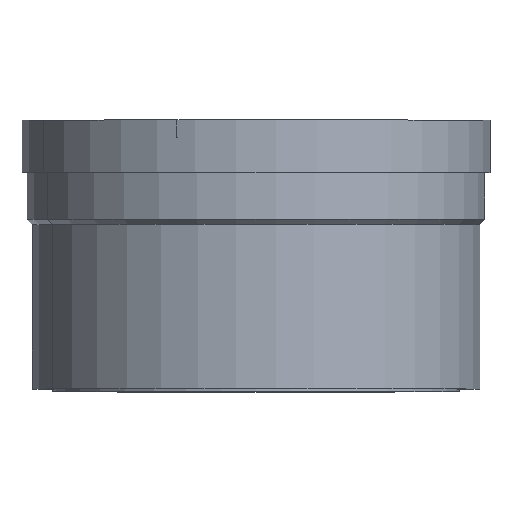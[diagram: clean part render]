
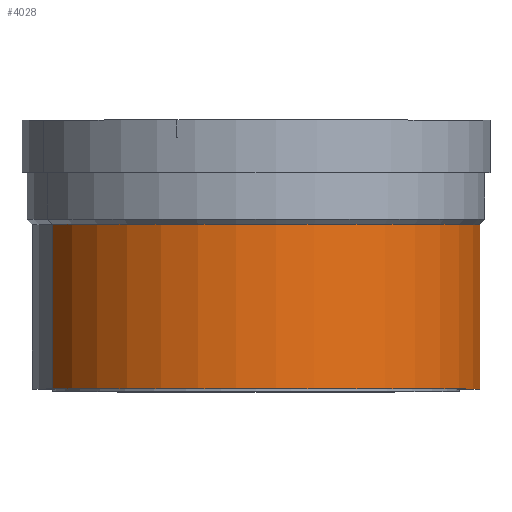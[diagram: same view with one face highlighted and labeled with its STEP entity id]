
A CAD part, top view. The second image highlights one B-rep face of the part: STEP entity #4028.
In plain terms, the highlighted cylindrical face has radius 43 mm (diameter 86 mm), a partial arc.
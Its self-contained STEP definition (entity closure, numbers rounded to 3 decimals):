
#392=CARTESIAN_POINT('',(0.,-3.,0.));
#393=DIRECTION('',(0.,1.,0.));
#394=DIRECTION('',(-0.906,0.,0.423));
#395=AXIS2_PLACEMENT_3D('',#392,#393,#394);
#397=DIRECTION('',(0.,-1.,0.));
#398=VECTOR('',#397,31.5);
#399=CARTESIAN_POINT('',(-38.971,-3.,18.173));
#400=LINE('',#399,#398);
#401=DIRECTION('',(0.,1.,0.));
#402=VECTOR('',#401,31.5);
#403=CARTESIAN_POINT('',(38.971,-34.5,-18.173));
#404=LINE('',#403,#402);
#415=CARTESIAN_POINT('',(0.,-34.5,0.));
#416=DIRECTION('',(0.,1.,0.));
#417=DIRECTION('',(-0.906,0.,0.423));
#418=AXIS2_PLACEMENT_3D('',#415,#416,#417);
#3093=CARTESIAN_POINT('',(-38.971,-3.,18.173));
#3095=VERTEX_POINT('',#3093);
#3098=CARTESIAN_POINT('',(38.971,-3.,-18.173));
#3100=VERTEX_POINT('',#3098);
#3101=CARTESIAN_POINT('',(-38.971,-34.5,18.173));
#3102=VERTEX_POINT('',#3101);
#3103=CARTESIAN_POINT('',(38.971,-34.5,-18.173));
#3104=VERTEX_POINT('',#3103);
#4014=CARTESIAN_POINT('',(0.,-35.13,0.));
#4015=DIRECTION('',(0.,1.,0.));
#4016=DIRECTION('',(0.906,0.,-0.423));
#4017=AXIS2_PLACEMENT_3D('',#4014,#4015,#4016);
#4018=CYLINDRICAL_SURFACE('',#4017,43.);
#4020=ORIENTED_EDGE('',*,*,#4019,.F.);
#4021=ORIENTED_EDGE('',*,*,#4009,.T.);
#4023=ORIENTED_EDGE('',*,*,#4022,.F.);
#4025=ORIENTED_EDGE('',*,*,#4024,.F.);
#4026=EDGE_LOOP('',(#4020,#4021,#4023,#4025));
#4027=FACE_OUTER_BOUND('',#4026,.F.);
#396=CIRCLE('',#395,43.);
#419=CIRCLE('',#418,43.);
#4009=EDGE_CURVE('',#3095,#3100,#396,.T.);
#4019=EDGE_CURVE('',#3095,#3102,#400,.T.);
#4022=EDGE_CURVE('',#3104,#3100,#404,.T.);
#4024=EDGE_CURVE('',#3102,#3104,#419,.T.);
#4028=ADVANCED_FACE('',(#4027),#4018,.T.);
